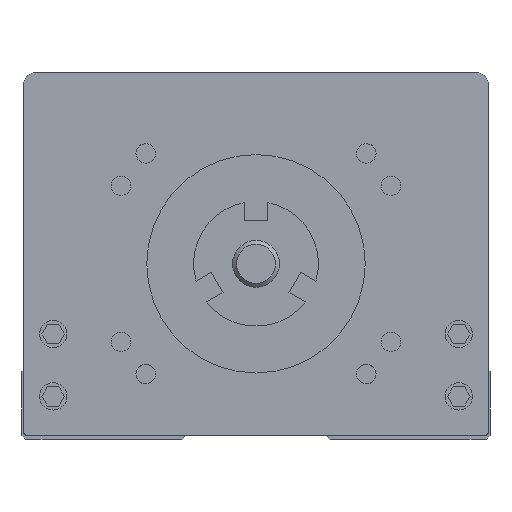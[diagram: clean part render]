
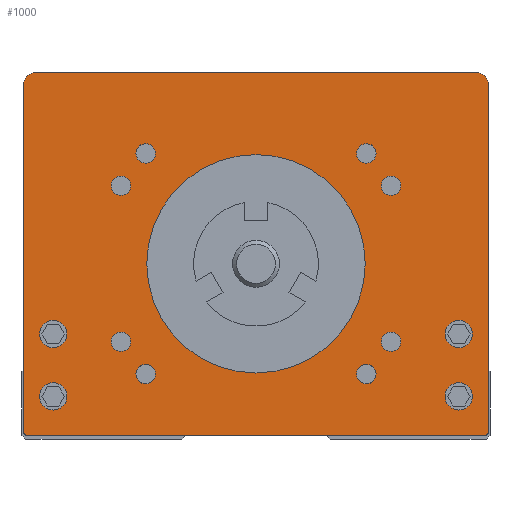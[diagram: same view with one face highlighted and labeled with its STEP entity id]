
A CAD part, front view. The second image highlights one B-rep face of the part: STEP entity #1000.
In plain terms, the highlighted planar face has unit normal (0, -1, 0).
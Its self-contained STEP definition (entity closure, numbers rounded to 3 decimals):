
#663=FACE_BOUND('',#2219,.T.);
#664=FACE_BOUND('',#2220,.T.);
#665=FACE_BOUND('',#2221,.T.);
#666=FACE_BOUND('',#2222,.T.);
#667=FACE_BOUND('',#2223,.T.);
#668=FACE_BOUND('',#2224,.T.);
#669=FACE_BOUND('',#2225,.T.);
#670=FACE_BOUND('',#2226,.T.);
#671=FACE_BOUND('',#2227,.T.);
#672=FACE_BOUND('',#2228,.T.);
#673=FACE_BOUND('',#2229,.T.);
#674=FACE_BOUND('',#2230,.T.);
#675=FACE_BOUND('',#2231,.T.);
#676=FACE_BOUND('',#2232,.T.);
#1000=ADVANCED_FACE('',(#663,#664,#665,#666,#667,#668,#669,#670,#671,#672,
#673,#674,#675,#676),#1422,.F.);
#1422=PLANE('',#8991);
#2219=EDGE_LOOP('',(#3691));
#2220=EDGE_LOOP('',(#3692));
#2221=EDGE_LOOP('',(#3693));
#2222=EDGE_LOOP('',(#3694));
#2223=EDGE_LOOP('',(#3695));
#2224=EDGE_LOOP('',(#3696));
#2225=EDGE_LOOP('',(#3697));
#2226=EDGE_LOOP('',(#3698));
#2227=EDGE_LOOP('',(#3699,#3700,#3701,#3702,#3703,#3704,#3705,#3706));
#2228=EDGE_LOOP('',(#3707));
#2229=EDGE_LOOP('',(#3708));
#2230=EDGE_LOOP('',(#3709));
#2231=EDGE_LOOP('',(#3710));
#2232=EDGE_LOOP('',(#3711));
#2794=CIRCLE('',#8974,1.25);
#2795=CIRCLE('',#8975,1.25);
#2796=CIRCLE('',#8976,1.25);
#2797=CIRCLE('',#8977,1.25);
#2798=CIRCLE('',#8978,1.25);
#2799=CIRCLE('',#8979,1.25);
#2800=CIRCLE('',#8980,1.25);
#2801=CIRCLE('',#8981,1.25);
#2802=CIRCLE('',#8982,0.5);
#2803=CIRCLE('',#8983,1.5);
#2804=CIRCLE('',#8984,1.5);
#2805=CIRCLE('',#8985,0.5);
#2806=CIRCLE('',#8986,1.75);
#2807=CIRCLE('',#8987,1.75);
#2808=CIRCLE('',#8988,1.75);
#2809=CIRCLE('',#8989,1.75);
#2810=CIRCLE('',#8990,14.);
#3691=ORIENTED_EDGE('',*,*,#6385,.F.);
#3692=ORIENTED_EDGE('',*,*,#6386,.F.);
#3693=ORIENTED_EDGE('',*,*,#6387,.F.);
#3694=ORIENTED_EDGE('',*,*,#6388,.F.);
#3695=ORIENTED_EDGE('',*,*,#6389,.F.);
#3696=ORIENTED_EDGE('',*,*,#6390,.F.);
#3697=ORIENTED_EDGE('',*,*,#6391,.F.);
#3698=ORIENTED_EDGE('',*,*,#6392,.F.);
#3699=ORIENTED_EDGE('',*,*,#6096,.T.);
#3700=ORIENTED_EDGE('',*,*,#6393,.T.);
#3701=ORIENTED_EDGE('',*,*,#6364,.T.);
#3702=ORIENTED_EDGE('',*,*,#6394,.T.);
#3703=ORIENTED_EDGE('',*,*,#6395,.F.);
#3704=ORIENTED_EDGE('',*,*,#6396,.T.);
#3705=ORIENTED_EDGE('',*,*,#6397,.T.);
#3706=ORIENTED_EDGE('',*,*,#6398,.T.);
#3707=ORIENTED_EDGE('',*,*,#6399,.F.);
#3708=ORIENTED_EDGE('',*,*,#6400,.F.);
#3709=ORIENTED_EDGE('',*,*,#6401,.F.);
#3710=ORIENTED_EDGE('',*,*,#6402,.F.);
#3711=ORIENTED_EDGE('',*,*,#6403,.F.);
#5319=VERTEX_POINT('',#12197);
#5320=VERTEX_POINT('',#12199);
#5484=VERTEX_POINT('',#12742);
#5485=VERTEX_POINT('',#12744);
#5505=VERTEX_POINT('',#12790);
#5506=VERTEX_POINT('',#12792);
#5507=VERTEX_POINT('',#12794);
#5508=VERTEX_POINT('',#12796);
#5509=VERTEX_POINT('',#12798);
#5510=VERTEX_POINT('',#12800);
#5511=VERTEX_POINT('',#12802);
#5512=VERTEX_POINT('',#12804);
#5513=VERTEX_POINT('',#12807);
#5514=VERTEX_POINT('',#12809);
#5515=VERTEX_POINT('',#12811);
#5516=VERTEX_POINT('',#12813);
#5517=VERTEX_POINT('',#12816);
#5518=VERTEX_POINT('',#12818);
#5519=VERTEX_POINT('',#12820);
#5520=VERTEX_POINT('',#12822);
#5521=VERTEX_POINT('',#12824);
#6096=EDGE_CURVE('',#5320,#5319,#7176,.T.);
#6364=EDGE_CURVE('',#5485,#5484,#7359,.T.);
#6385=EDGE_CURVE('',#5505,#5505,#2794,.T.);
#6386=EDGE_CURVE('',#5506,#5506,#2795,.T.);
#6387=EDGE_CURVE('',#5507,#5507,#2796,.T.);
#6388=EDGE_CURVE('',#5508,#5508,#2797,.T.);
#6389=EDGE_CURVE('',#5509,#5509,#2798,.T.);
#6390=EDGE_CURVE('',#5510,#5510,#2799,.T.);
#6391=EDGE_CURVE('',#5511,#5511,#2800,.T.);
#6392=EDGE_CURVE('',#5512,#5512,#2801,.T.);
#6393=EDGE_CURVE('',#5319,#5485,#2802,.T.);
#6394=EDGE_CURVE('',#5484,#5513,#2803,.T.);
#6395=EDGE_CURVE('',#5514,#5513,#7372,.T.);
#6396=EDGE_CURVE('',#5514,#5515,#2804,.T.);
#6397=EDGE_CURVE('',#5515,#5516,#7373,.T.);
#6398=EDGE_CURVE('',#5516,#5320,#2805,.T.);
#6399=EDGE_CURVE('',#5517,#5517,#2806,.T.);
#6400=EDGE_CURVE('',#5518,#5518,#2807,.T.);
#6401=EDGE_CURVE('',#5519,#5519,#2808,.T.);
#6402=EDGE_CURVE('',#5520,#5520,#2809,.T.);
#6403=EDGE_CURVE('',#5521,#5521,#2810,.T.);
#7176=LINE('',#12198,#7958);
#7359=LINE('',#12743,#8141);
#7372=LINE('',#12808,#8154);
#7373=LINE('',#12812,#8155);
#7958=VECTOR('',#9715,1.);
#8141=VECTOR('',#10292,1.);
#8154=VECTOR('',#10351,1.);
#8155=VECTOR('',#10354,1.);
#8974=AXIS2_PLACEMENT_3D('',#12789,#10331,#10332);
#8975=AXIS2_PLACEMENT_3D('',#12791,#10333,#10334);
#8976=AXIS2_PLACEMENT_3D('',#12793,#10335,#10336);
#8977=AXIS2_PLACEMENT_3D('',#12795,#10337,#10338);
#8978=AXIS2_PLACEMENT_3D('',#12797,#10339,#10340);
#8979=AXIS2_PLACEMENT_3D('',#12799,#10341,#10342);
#8980=AXIS2_PLACEMENT_3D('',#12801,#10343,#10344);
#8981=AXIS2_PLACEMENT_3D('',#12803,#10345,#10346);
#8982=AXIS2_PLACEMENT_3D('',#12805,#10347,#10348);
#8983=AXIS2_PLACEMENT_3D('',#12806,#10349,#10350);
#8984=AXIS2_PLACEMENT_3D('',#12810,#10352,#10353);
#8985=AXIS2_PLACEMENT_3D('',#12814,#10355,#10356);
#8986=AXIS2_PLACEMENT_3D('',#12815,#10357,#10358);
#8987=AXIS2_PLACEMENT_3D('',#12817,#10359,#10360);
#8988=AXIS2_PLACEMENT_3D('',#12819,#10361,#10362);
#8989=AXIS2_PLACEMENT_3D('',#12821,#10363,#10364);
#8990=AXIS2_PLACEMENT_3D('',#12823,#10365,#10366);
#8991=AXIS2_PLACEMENT_3D('',#12825,#10367,#10368);
#9715=DIRECTION('',(1.,0.,0.));
#10292=DIRECTION('',(0.,0.,1.));
#10331=DIRECTION('',(0.,-1.,0.));
#10332=DIRECTION('',(0.,0.,1.));
#10333=DIRECTION('',(0.,-1.,0.));
#10334=DIRECTION('',(0.,0.,1.));
#10335=DIRECTION('',(0.,-1.,0.));
#10336=DIRECTION('',(0.,0.,1.));
#10337=DIRECTION('',(0.,-1.,0.));
#10338=DIRECTION('',(0.,0.,1.));
#10339=DIRECTION('',(0.,-1.,0.));
#10340=DIRECTION('',(0.,0.,1.));
#10341=DIRECTION('',(0.,-1.,0.));
#10342=DIRECTION('',(0.,0.,1.));
#10343=DIRECTION('',(0.,-1.,0.));
#10344=DIRECTION('',(0.,0.,1.));
#10345=DIRECTION('',(0.,-1.,0.));
#10346=DIRECTION('',(0.,0.,1.));
#10347=DIRECTION('',(0.,-1.,0.));
#10348=DIRECTION('',(0.,0.,1.));
#10349=DIRECTION('',(0.,-1.,0.));
#10350=DIRECTION('',(1.,0.,0.));
#10351=DIRECTION('',(1.,0.,0.));
#10352=DIRECTION('',(0.,-1.,0.));
#10353=DIRECTION('',(0.,0.,1.));
#10354=DIRECTION('',(0.,0.,-1.));
#10355=DIRECTION('',(0.,-1.,0.));
#10356=DIRECTION('',(0.,0.,1.));
#10357=DIRECTION('',(0.,-1.,0.));
#10358=DIRECTION('',(-1.,0.,0.));
#10359=DIRECTION('',(0.,-1.,0.));
#10360=DIRECTION('',(-1.,0.,0.));
#10361=DIRECTION('',(0.,-1.,0.));
#10362=DIRECTION('',(-1.,0.,0.));
#10363=DIRECTION('',(0.,-1.,0.));
#10364=DIRECTION('',(-1.,0.,0.));
#10365=DIRECTION('',(0.,-1.,0.));
#10366=DIRECTION('',(-1.,0.,0.));
#10367=DIRECTION('',(0.,1.,0.));
#10368=DIRECTION('',(1.,0.,0.));
#12197=CARTESIAN_POINT('',(29.3,50.,0.));
#12198=CARTESIAN_POINT('',(-28.3,50.,0.));
#12199=CARTESIAN_POINT('',(-29.3,50.,0.));
#12742=CARTESIAN_POINT('',(29.8,50.,45.));
#12743=CARTESIAN_POINT('',(29.8,50.,1.5));
#12744=CARTESIAN_POINT('',(29.8,50.,0.5));
#12789=CARTESIAN_POINT('',(-14.142,50.,36.142));
#12790=CARTESIAN_POINT('',(-14.142,50.,37.392));
#12791=CARTESIAN_POINT('',(14.142,50.,36.142));
#12792=CARTESIAN_POINT('',(14.142,50.,37.392));
#12793=CARTESIAN_POINT('',(14.142,50.,7.858));
#12794=CARTESIAN_POINT('',(14.142,50.,9.108));
#12795=CARTESIAN_POINT('',(-14.142,50.,7.858));
#12796=CARTESIAN_POINT('',(-14.142,50.,9.108));
#12797=CARTESIAN_POINT('',(-17.321,50.,32.));
#12798=CARTESIAN_POINT('',(-17.321,50.,33.25));
#12799=CARTESIAN_POINT('',(17.321,50.,32.));
#12800=CARTESIAN_POINT('',(17.321,50.,33.25));
#12801=CARTESIAN_POINT('',(17.321,50.,12.));
#12802=CARTESIAN_POINT('',(17.321,50.,13.25));
#12803=CARTESIAN_POINT('',(-17.321,50.,12.));
#12804=CARTESIAN_POINT('',(-17.321,50.,13.25));
#12805=CARTESIAN_POINT('',(29.3,50.,0.5));
#12806=CARTESIAN_POINT('',(28.3,50.,45.));
#12807=CARTESIAN_POINT('',(28.3,50.,46.5));
#12808=CARTESIAN_POINT('',(-28.3,50.,46.5));
#12809=CARTESIAN_POINT('',(-28.3,50.,46.5));
#12810=CARTESIAN_POINT('',(-28.3,50.,45.));
#12811=CARTESIAN_POINT('',(-29.8,50.,45.));
#12812=CARTESIAN_POINT('',(-29.8,50.,42.5));
#12813=CARTESIAN_POINT('',(-29.8,50.,0.5));
#12814=CARTESIAN_POINT('',(-29.3,50.,0.5));
#12815=CARTESIAN_POINT('',(-26.,50.,13.));
#12816=CARTESIAN_POINT('',(-27.75,50.,13.));
#12817=CARTESIAN_POINT('',(-26.,50.,5.));
#12818=CARTESIAN_POINT('',(-27.75,50.,5.));
#12819=CARTESIAN_POINT('',(26.,50.,5.));
#12820=CARTESIAN_POINT('',(24.25,50.,5.));
#12821=CARTESIAN_POINT('',(26.,50.,13.));
#12822=CARTESIAN_POINT('',(24.25,50.,13.));
#12823=CARTESIAN_POINT('',(0.,50.,22.));
#12824=CARTESIAN_POINT('',(-14.,50.,22.));
#12825=CARTESIAN_POINT('',(0.,50.,-28.5));
